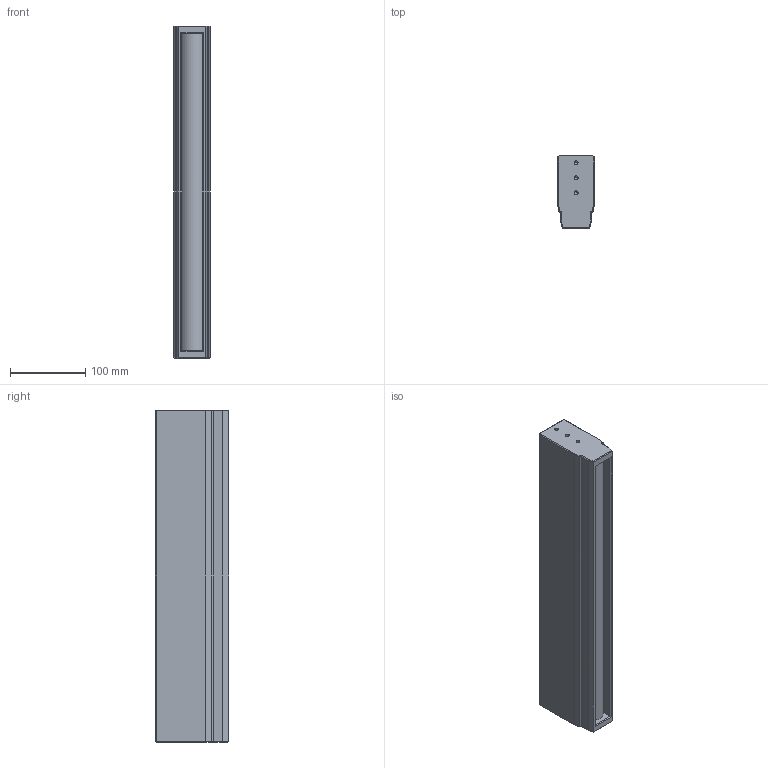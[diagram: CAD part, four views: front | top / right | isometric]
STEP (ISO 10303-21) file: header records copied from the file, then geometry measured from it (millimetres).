
FILE_DESCRIPTION (( 'STEP AP203' ), '1' );
FILE_NAME ('PPX-LS440-W.STEP', '2021-10-26T07:32:57', ( 'China' ), ( 'Home' ), 'SwSTEP 2.0', 'SolidWorks 2016', '' );
FILE_SCHEMA (( 'CONFIG_CONTROL_DESIGN' ));
Length unit declared in the file: millimetre
Products named in the file (5): 瑞圮ㄗ40ㄘ; PPX-LS440-W; PPX-LS440翋极; PPX-LS80-W-A1.0諉諳假蚾啣; 瑤諾譫芛
Assembly tree (8 placements, depth 2):
  PPX-LS440-W
    PPX-LS440翋极
    PPX-LS80-W-A1.0諉諳假蚾啣
    瑤諾譫芛
    瑞圮ㄗ40ㄘ  x5
Bounding box: 48 x 97 x 440 mm (x, y, z)
Volume: 1111646.6 mm3; surface area: 362279.8 mm2
Topology: 8 solids, 9 shells, 1235 faces, 3037 edges, 1890 vertices
Faces by surface type: cylinder 453, plane 401, torus 224, bspline 135, cone 22
Entity records: 13749 total; most frequent: CARTESIAN_POINT 3168, DIRECTION 2149, ORIENTED_EDGE 2026, EDGE_CURVE 1013, AXIS2_PLACEMENT_3D 823, VERTEX_POINT 634, VECTOR 503, LINE 503
